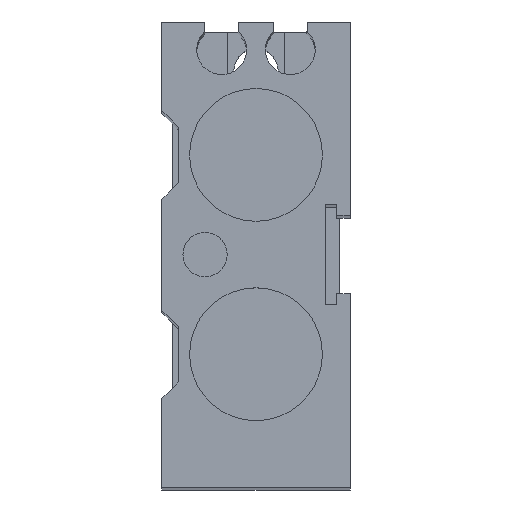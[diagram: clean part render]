
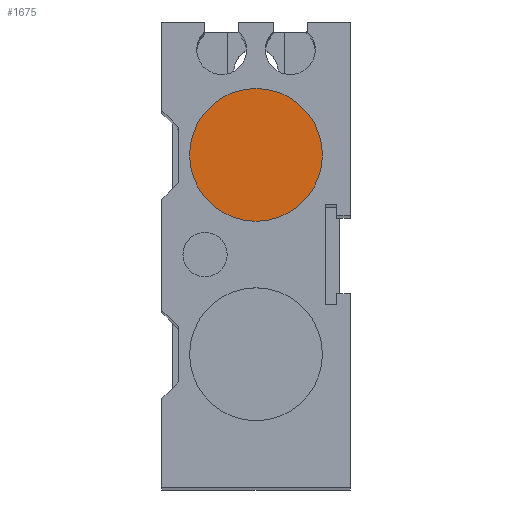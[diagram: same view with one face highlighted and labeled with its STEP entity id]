
A CAD part, top view. The second image highlights one B-rep face of the part: STEP entity #1675.
In plain terms, the highlighted planar face has unit normal (0, 0, 1).
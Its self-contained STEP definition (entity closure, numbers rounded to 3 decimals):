
#1644=CARTESIAN_POINT('',(6.,9.0,258.));
#1645=VERTEX_POINT('',#1644);
#1646=CARTESIAN_POINT('',(0.,9.0,258.));
#1647=DIRECTION('',(0.0,0.0,1.0));
#1648=DIRECTION('',(-1.0,0.0,0.0));
#1649=AXIS2_PLACEMENT_3D('',#1646,#1647,#1648);
#1650=CIRCLE('',#1649,6.);
#1651=EDGE_CURVE('',#1645,#1645,#1650,.T.);
#1667=CARTESIAN_POINT('',(0.,9.0,258.));
#1668=DIRECTION('',(0.0,0.0,-1.0));
#1669=DIRECTION('',(-1.0,0.0,0.0));
#1670=AXIS2_PLACEMENT_3D('',#1667,#1668,#1669);
#1671=PLANE('',#1670);
#1672=ORIENTED_EDGE('',*,*,#1651,.T.);
#1673=EDGE_LOOP('',(#1672));
#1674=FACE_OUTER_BOUND('',#1673,.T.);
#1675=ADVANCED_FACE('',(#1674),#1671,.F.);
